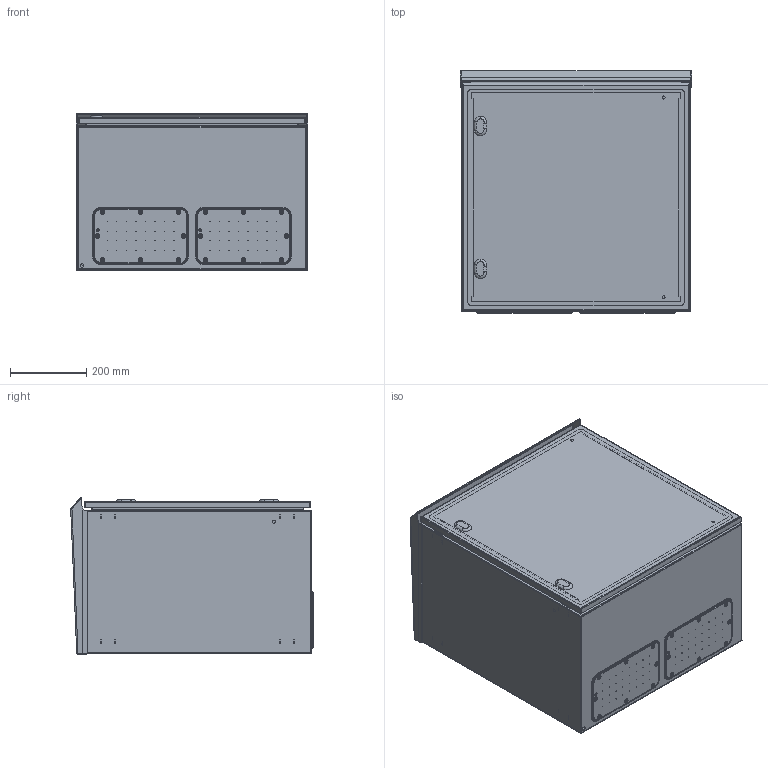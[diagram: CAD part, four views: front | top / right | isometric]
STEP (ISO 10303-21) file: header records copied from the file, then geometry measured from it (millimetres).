
FILE_DESCRIPTION (( 'STEP AP203' ), '1' );
FILE_NAME ('APRO06640BOC.STEP', '2022-01-05T14:05:08', ( '' ), ( '' ), 'SwSTEP 2.0', 'SolidWorks 2021', '' );
FILE_SCHEMA (( 'CONFIG_CONTROL_DESIGN' ));
Length unit declared in the file: millimetre
Products named in the file (9): AR_ECOR_porta_singola_0600x0600; AR_ECOR_montaggio_porta_singola_0600x0600; AR_ECOR_Tettuccio_19; 03008080701_04; AR_ECOR_chiusura_std_STD; AR_ECOR_flangia IC_03; APRO06640BOC; AR_BOX ABACUS PRO_involucro_0600x0600x0400; 03008060001_06
Assembly tree (14 placements, depth 3):
  APRO06640BOC
    AR_BOX ABACUS PRO_involucro_0600x0600x0400
    AR_ECOR_montaggio_porta_singola_0600x0600
      AR_ECOR_porta_singola_0600x0600
      AR_ECOR_chiusura_std_STD  x2
    AR_ECOR_flangia IC_03  x2
    03008060001_06  x4
    03008080701_04  x2
    AR_ECOR_Tettuccio_19
Bounding box: 607 x 637.3 x 411.42 mm (x, y, z)
Volume: 3475156.3 mm3; surface area: 4673528.5 mm2
Topology: 13 solids, 13 shells, 3621 faces, 9827 edges, 6094 vertices
Faces by surface type: plane 2282, cylinder 1065, cone 108, torus 78, bspline 72, sphere 16
Entity records: 55455 total; most frequent: CARTESIAN_POINT 10758, ORIENTED_EDGE 9056, DIRECTION 8995, EDGE_CURVE 4528, LINE 3167, VECTOR 3167, AXIS2_PLACEMENT_3D 2914, VERTEX_POINT 2858
